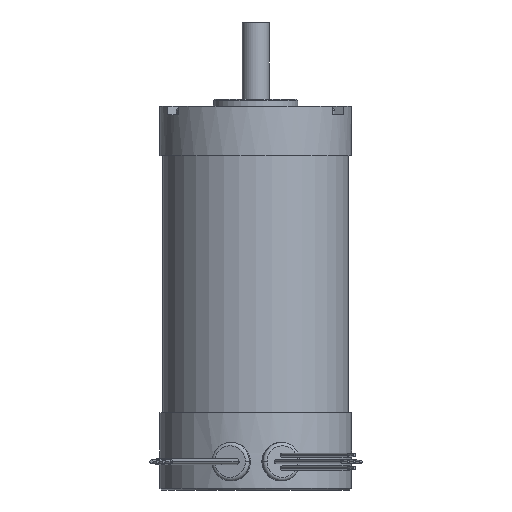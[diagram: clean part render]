
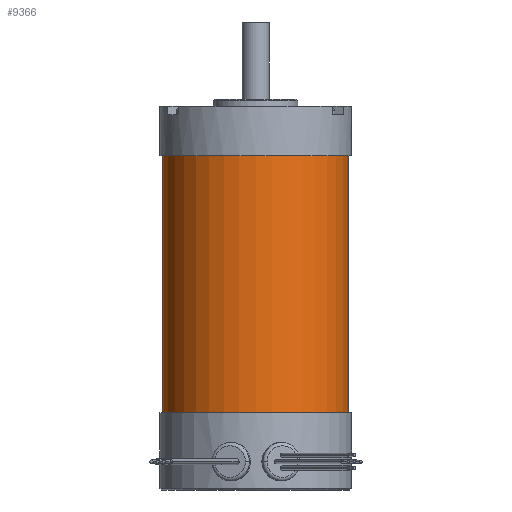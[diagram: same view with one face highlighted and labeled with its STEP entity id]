
A CAD part, front view. The second image highlights one B-rep face of the part: STEP entity #9366.
In plain terms, the highlighted cylindrical face has radius 27.495 mm (diameter 54.991 mm), a partial arc.
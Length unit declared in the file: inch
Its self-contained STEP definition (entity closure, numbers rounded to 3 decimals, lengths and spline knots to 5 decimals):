
#32 = EDGE_CURVE ( 'NONE', #10918, #6539, #8166, .T. ) ;
#117 = VECTOR ( 'NONE', #3864, 39.37008 ) ;
#435 = VERTEX_POINT ( 'NONE', #3222 ) ;
#1295 = AXIS2_PLACEMENT_3D ( 'NONE', #10284, #11301, #3184 ) ;
#2149 = CARTESIAN_POINT ( 'NONE',  ( 1.0825, 0., -3.57 ) ) ;
#2484 = CARTESIAN_POINT ( 'NONE',  ( 1.0825, 0., -3.57 ) ) ;
#2781 = EDGE_CURVE ( 'NONE', #12810, #10918, #10116, .T. ) ;
#2845 = DIRECTION ( 'NONE',  ( 0., 0., -1. ) ) ;
#2900 = CYLINDRICAL_SURFACE ( 'NONE', #1295, 1.0825 ) ;
#3184 = DIRECTION ( 'NONE',  ( 1., 0., 0. ) ) ;
#3222 = CARTESIAN_POINT ( 'NONE',  ( 1.0825, 0., -0.575 ) ) ;
#3864 = DIRECTION ( 'NONE',  ( 0., 0., 1. ) ) ;
#4377 = ORIENTED_EDGE ( 'NONE', *, *, #2781, .F. ) ;
#4722 = CARTESIAN_POINT ( 'NONE',  ( -1.0825, 0., -3.57 ) ) ;
#4817 = VECTOR ( 'NONE', #6249, 39.37008 ) ;
#5331 = DIRECTION ( 'NONE',  ( 0., 0., -1. ) ) ;
#5813 = CIRCLE ( 'NONE', #7743, 1.0825 ) ;
#6158 = ORIENTED_EDGE ( 'NONE', *, *, #32, .F. ) ;
#6249 = DIRECTION ( 'NONE',  ( 0., 0., 1. ) ) ;
#6539 = VERTEX_POINT ( 'NONE', #13352 ) ;
#7724 = ORIENTED_EDGE ( 'NONE', *, *, #10392, .T. ) ;
#7730 = CARTESIAN_POINT ( 'NONE',  ( -1.0825, 0., -3.57 ) ) ;
#7743 = AXIS2_PLACEMENT_3D ( 'NONE', #9024, #2845, #10022 ) ;
#8166 = LINE ( 'NONE', #4722, #117 ) ;
#8524 = EDGE_LOOP ( 'NONE', ( #6158, #4377, #7724, #10797 ) ) ;
#9024 = CARTESIAN_POINT ( 'NONE',  ( 0., 0., -0.575 ) ) ;
#9366 = ADVANCED_FACE ( 'NONE', ( #9677 ), #2900, .T. ) ;
#9677 = FACE_OUTER_BOUND ( 'NONE', #8524, .T. ) ;
#9857 = LINE ( 'NONE', #2149, #4817 ) ;
#10022 = DIRECTION ( 'NONE',  ( -1., 0., 0. ) ) ;
#10116 = CIRCLE ( 'NONE', #11350, 1.0825 ) ;
#10284 = CARTESIAN_POINT ( 'NONE',  ( 0., 0., -3.57 ) ) ;
#10392 = EDGE_CURVE ( 'NONE', #12810, #435, #9857, .T. ) ;
#10797 = ORIENTED_EDGE ( 'NONE', *, *, #12387, .T. ) ;
#10918 = VERTEX_POINT ( 'NONE', #7730 ) ;
#11301 = DIRECTION ( 'NONE',  ( 0., 0., 1. ) ) ;
#11350 = AXIS2_PLACEMENT_3D ( 'NONE', #11395, #5331, #12380 ) ;
#11395 = CARTESIAN_POINT ( 'NONE',  ( 0., 0., -3.57 ) ) ;
#12380 = DIRECTION ( 'NONE',  ( -1., 0., 0. ) ) ;
#12387 = EDGE_CURVE ( 'NONE', #435, #6539, #5813, .T. ) ;
#12810 = VERTEX_POINT ( 'NONE', #2484 ) ;
#13352 = CARTESIAN_POINT ( 'NONE',  ( -1.0825, 0., -0.575 ) ) ;
